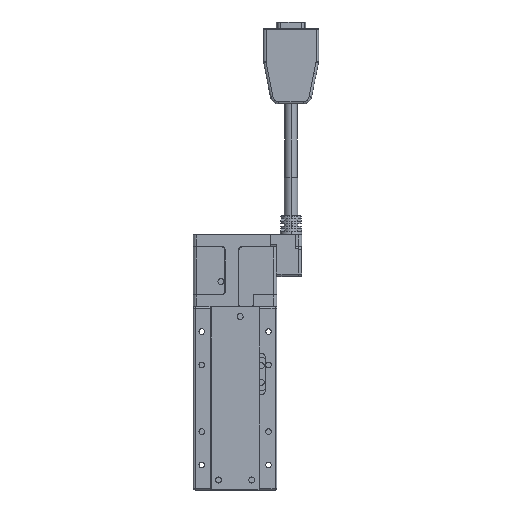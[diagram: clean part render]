
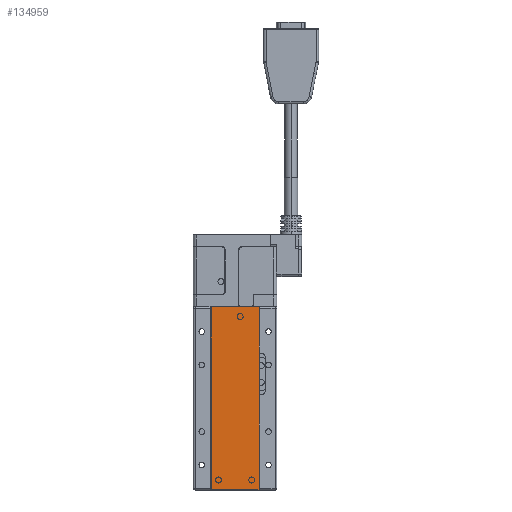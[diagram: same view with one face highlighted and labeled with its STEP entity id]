
A CAD part, front view. The second image highlights one B-rep face of the part: STEP entity #134959.
In plain terms, the highlighted planar face has unit normal (0, -1, 0).
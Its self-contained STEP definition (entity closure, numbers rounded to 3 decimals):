
#3515 = EDGE_CURVE ( 'NONE', #13469, #50355, #66547, .T. ) ;
#8671 = LINE ( 'NONE', #102281, #72628 ) ;
#11444 = EDGE_CURVE ( 'NONE', #75792, #97581, #8671, .T. ) ;
#13469 = VERTEX_POINT ( 'NONE', #59305 ) ;
#24422 = CARTESIAN_POINT ( 'NONE',  ( -14.3, -10.95, -54.8 ) ) ;
#40190 = AXIS2_PLACEMENT_3D ( 'NONE', #86538, #72205, #119006 ) ;
#40782 = ORIENTED_EDGE ( 'NONE', *, *, #3515, .T. ) ;
#50355 = VERTEX_POINT ( 'NONE', #24422 ) ;
#55395 = VECTOR ( 'NONE', #141960, 1000. ) ;
#59305 = CARTESIAN_POINT ( 'NONE',  ( -14.3, -10.95, 54.8 ) ) ;
#61943 = VECTOR ( 'NONE', #65040, 1000. ) ;
#65040 = DIRECTION ( 'NONE',  ( -1., 0., 0. ) ) ;
#66547 = LINE ( 'NONE', #89580, #100942 ) ;
#71372 = LINE ( 'NONE', #119662, #55395 ) ;
#72205 = DIRECTION ( 'NONE',  ( 0., 1., 0. ) ) ;
#72628 = VECTOR ( 'NONE', #104551, 1000. ) ;
#75792 = VERTEX_POINT ( 'NONE', #90600 ) ;
#86112 = EDGE_LOOP ( 'NONE', ( #40782, #122791, #117023, #112428 ) ) ;
#86538 = CARTESIAN_POINT ( 'NONE',  ( -14.3, -10.95, 54.8 ) ) ;
#87322 = CARTESIAN_POINT ( 'NONE',  ( -14.3, -10.95, 54.8 ) ) ;
#89580 = CARTESIAN_POINT ( 'NONE',  ( -14.3, -10.95, -54.8 ) ) ;
#90600 = CARTESIAN_POINT ( 'NONE',  ( 14.3, -10.95, -54.8 ) ) ;
#92520 = EDGE_CURVE ( 'NONE', #97581, #13469, #112632, .T. ) ;
#97581 = VERTEX_POINT ( 'NONE', #112815 ) ;
#100942 = VECTOR ( 'NONE', #113368, 1000. ) ;
#102281 = CARTESIAN_POINT ( 'NONE',  ( 14.3, -10.95, -54.8 ) ) ;
#104551 = DIRECTION ( 'NONE',  ( 0., 0., 1. ) ) ;
#112428 = ORIENTED_EDGE ( 'NONE', *, *, #92520, .T. ) ;
#112632 = LINE ( 'NONE', #87322, #61943 ) ;
#112815 = CARTESIAN_POINT ( 'NONE',  ( 14.3, -10.95, 54.8 ) ) ;
#113368 = DIRECTION ( 'NONE',  ( 0., 0., -1. ) ) ;
#117023 = ORIENTED_EDGE ( 'NONE', *, *, #11444, .T. ) ;
#118269 = FACE_OUTER_BOUND ( 'NONE', #86112, .T. ) ;
#119006 = DIRECTION ( 'NONE',  ( -1., 0., 0. ) ) ;
#119662 = CARTESIAN_POINT ( 'NONE',  ( -14.3, -10.95, -54.8 ) ) ;
#122791 = ORIENTED_EDGE ( 'NONE', *, *, #127738, .T. ) ;
#127738 = EDGE_CURVE ( 'NONE', #50355, #75792, #71372, .T. ) ;
#130543 = PLANE ( 'NONE',  #40190 ) ;
#134959 = ADVANCED_FACE ( 'NONE', ( #118269 ), #130543, .F. ) ;
#141960 = DIRECTION ( 'NONE',  ( 1., 0., 0. ) ) ;
